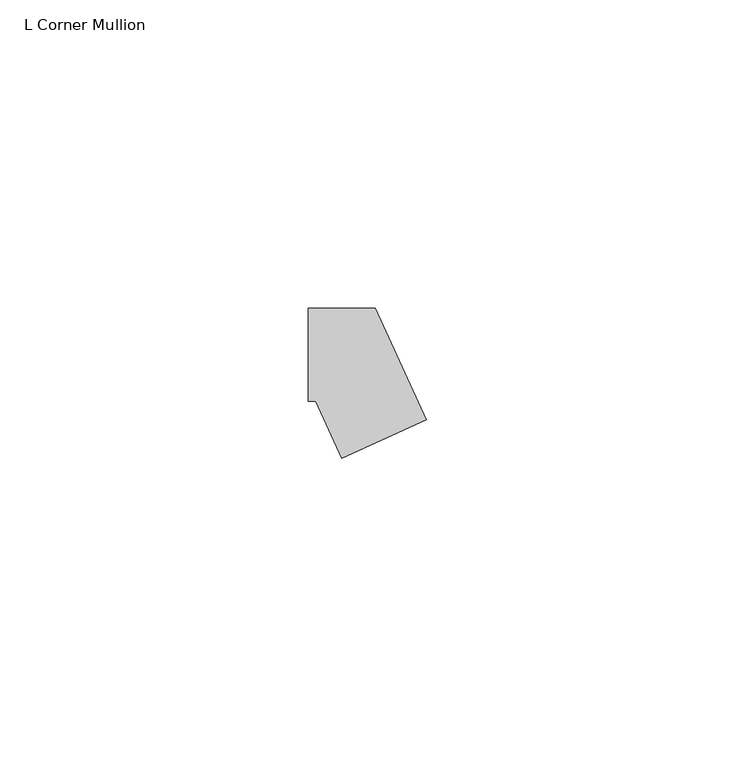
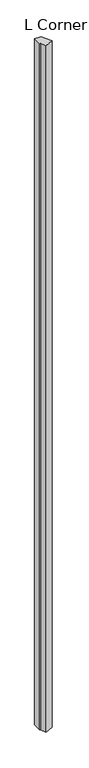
"""IFC4 building model written with IfcOpenShell, lengths in millimetres: member geometry, L Corner Mullion : ARQ_HERR_15X6mm."""

from ifc_helpers import new_model, si_unit, frame, origin, place, context, project, spatial, polyline, outline, extrude, source, transform, mapped, element, save


def l_corner_mullion_b20a5560(model_context):
    return source(origin(), model_context, "Body", "SweptSolid", [
        extrude(outline(polyline([(-0.5775282, -16.7605627), (-4.8156946, -7.5), (-6.0, -7.5), (-6.0, 7.5), (4.8156946, 7.5), (13.0619332, -10.5183601), (-0.5775282, -16.7605627)])), frame((0.0, 0.0, -1238.0), z_axis=(0.0, 0.0, 1.0), x_axis=(1.0, 0.0, 0.0)), (0.0, 0.0, 1.0), 1238.0),
    ])


if __name__ == "__main__":
    model = new_model("IFC4")
    model_context = context("Model", 3, world=origin())
    ifc_project = project(units=[si_unit("LENGTHUNIT", "METRE", prefix="MILLI")], contexts=[model_context])
    site = spatial("IfcSite", under=ifc_project)
    building = spatial("IfcBuilding", under=site)
    placement = place(None, origin())
    l_corner_mullion_shape = l_corner_mullion_b20a5560(model_context)
    element("IfcMember", 1, ObjectType="L Corner Mullion : ARQ_HERR_15X6mm", at=placement, inside=building, context=model_context, shape_type="MappedRepresentation", body=[
        mapped(l_corner_mullion_shape, transform((0.0, 0.0, 0.0), x_axis=(1.0, 0.0, 0.0), y_axis=(0.0, 1.0, 0.0), z_axis=(0.0, 0.0, 1.0))),
    ])
    save(model, "model.ifc")
